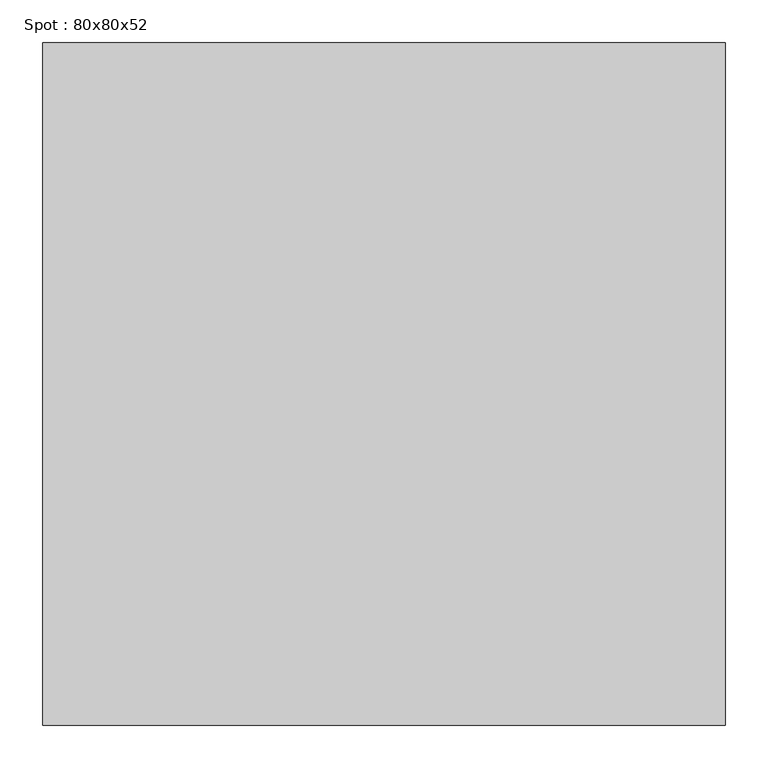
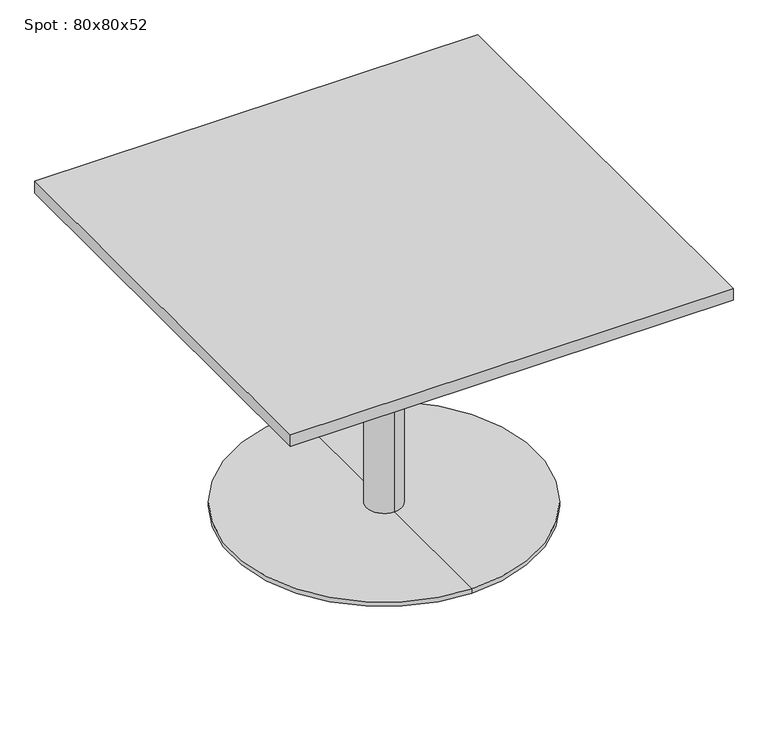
"""IFC4 building model written with IfcOpenShell, lengths in millimetres: furniture geometry, Spot : 80x80x52."""

from ifc_helpers import new_model, si_unit, frame, origin, place, context, project, spatial, polyline, circle_curve, outline, extrude, source, transform, mapped, element, save
from ifc_brep_helpers import plane_surface, cylinder_surface, revolved_surface, advanced_brep


def spot_80x80x52_e6303654(model_context):
    return source(origin(), model_context, "Body", "SolidModel", [
        extrude(outline(polyline([(400.0, 400.0), (400.0, -400.0), (-400.0, -400.0), (-400.0, 400.0), (400.0, 400.0)])), frame((0.0, 0.0, 498.0), z_axis=(0.0, 0.0, 1.0), x_axis=(1.0, 0.0, 0.0)), (0.0, 0.0, 1.0), 22.0),
        advanced_brep(
        [(0.0, 32.0, 10.0), (0.0, -32.0, 10.0), (0.0, -32.0, 467.406916), (0.0, 32.0, 467.406916), (0.0, 275.0, 10.0), (0.0, -275.0, 10.0), (0.0, 275.0, 2.0), (0.0, -275.0, 2.0), (0.0, 0.0, 2.0), (0.0, 150.0, 498.0), (0.0, -150.0, 498.0), (0.0, 0.0, 498.0), (0.0, 150.0, 486.7213673), (0.0, -150.0, 486.7213673)],
        [
            (0, 1, circle_curve(frame((0.0, 0.0, 10.0), z_axis=(0.0, 0.0, 1.0), x_axis=(0.0, -1.0, 0.0)), 32.0)),
            (1, 2),
            (2, 3, circle_curve(frame((0.0, 0.0, 467.406916), z_axis=(0.0, 0.0, -1.0), x_axis=(0.0, -1.0, 0.0)), 32.0)),
            (3, 0),
            (1, 0, circle_curve(frame((0.0, 0.0, 10.0), z_axis=(0.0, 0.0, 1.0), x_axis=(0.0, -1.0, 0.0)), 32.0)),
            (3, 2, circle_curve(frame((0.0, 0.0, 467.406916), z_axis=(0.0, 0.0, -1.0), x_axis=(0.0, -1.0, 0.0)), 32.0)),
            (4, 5, circle_curve(frame((0.0, 0.0, 10.0), z_axis=(0.0, 0.0, 1.0), x_axis=(0.0, -1.0, 0.0)), 275.0)),
            (5, 1),
            (0, 4),
            (5, 4, circle_curve(frame((0.0, 0.0, 10.0), z_axis=(0.0, 0.0, 1.0), x_axis=(0.0, -1.0, 0.0)), 275.0)),
            (6, 7, circle_curve(frame((0.0, 0.0, 2.0), z_axis=(0.0, 0.0, 1.0), x_axis=(0.0, -1.0, 0.0)), 275.0)),
            (7, 5),
            (4, 6),
            (7, 6, circle_curve(frame((0.0, 0.0, 2.0), z_axis=(0.0, 0.0, 1.0), x_axis=(0.0, -1.0, 0.0)), 275.0)),
            (8, 7),
            (6, 8),
            (9, 10, circle_curve(frame((0.0, 0.0, 498.0), z_axis=(0.0, 0.0, 1.0), x_axis=(0.0, -1.0, 0.0)), 150.0)),
            (10, 11),
            (11, 9),
            (10, 9, circle_curve(frame((0.0, 0.0, 498.0), z_axis=(0.0, 0.0, 1.0), x_axis=(0.0, -1.0, 0.0)), 150.0)),
            (12, 13, circle_curve(frame((0.0, 0.0, 486.7213673), z_axis=(0.0, 0.0, 1.0), x_axis=(0.0, -1.0, 0.0)), 150.0)),
            (13, 10),
            (9, 12),
            (13, 12, circle_curve(frame((0.0, 0.0, 486.7213673), z_axis=(0.0, 0.0, 1.0), x_axis=(0.0, -1.0, 0.0)), 150.0)),
            (2, 13),
            (12, 3),
        ],
        [
            cylinder_surface(frame((0.0, 0.0, 860.0), z_axis=(0.0, 0.0, -1.0), x_axis=(0.0, -1.0, 0.0)), 32.0),
            plane_surface(frame((0.0, 0.0, 10.0), z_axis=(0.0, 0.0, 1.0), x_axis=(0.0, -1.0, 0.0))),
            cylinder_surface(frame((0.0, 0.0, 860.0), z_axis=(0.0, 0.0, -1.0), x_axis=(0.0, -1.0, 0.0)), 275.0),
            plane_surface(frame((0.0, 0.0, 2.0), z_axis=(0.0, 0.0, -1.0), x_axis=(0.0, -1.0, 0.0))),
            plane_surface(frame((0.0, 0.0, 498.0), z_axis=(0.0, 0.0, 1.0), x_axis=(0.0, -1.0, 0.0))),
            cylinder_surface(frame((0.0, 0.0, 860.0), z_axis=(0.0, 0.0, -1.0), x_axis=(0.0, -1.0, 0.0)), 150.0),
            revolved_surface(polyline([(0.0, -150.0, 486.7213673), (0.0, -32.0, 467.406916)]), (0.0, 0.0, 860.0), (0.0, 0.0, -1.0)),
        ],
        [
            (0, [[1, 2, 3, 4]]),
            (0, [[5, -4, 6, -2]]),
            (1, [[7, 8, -1, 9]]),
            (1, [[10, -9, -5, -8]]),
            (2, [[11, 12, -7, 13]]),
            (2, [[14, -13, -10, -12]]),
            (3, [[15, -11, 16]]),
            (3, [[-16, -14, -15]]),
            (4, [[17, 18, 19]]),
            (4, [[20, -19, -18]]),
            (5, [[21, 22, -17, 23]]),
            (5, [[24, -23, -20, -22]]),
            (6, [[-3, 25, -21, 26]]),
            (6, [[-6, -26, -24, -25]]),
        ],
    ),
    ])


if __name__ == "__main__":
    model = new_model("IFC4")
    model_context = context("Model", 3, world=origin())
    ifc_project = project(units=[si_unit("LENGTHUNIT", "METRE", prefix="MILLI")], contexts=[model_context])
    site = spatial("IfcSite", under=ifc_project)
    building = spatial("IfcBuilding", under=site)
    placement = place(None, origin())
    spot_80x80x52_shape = spot_80x80x52_e6303654(model_context)
    element("IfcFurniture", 1, ObjectType="Spot : 80x80x52", at=placement, inside=building, context=model_context, shape_type="MappedRepresentation", body=[
        mapped(spot_80x80x52_shape, transform((0.0, 0.0, 0.0), x_axis=(1.0, 0.0, 0.0), y_axis=(0.0, 1.0, 0.0), z_axis=(0.0, 0.0, 1.0))),
    ])
    save(model, "model.ifc")
